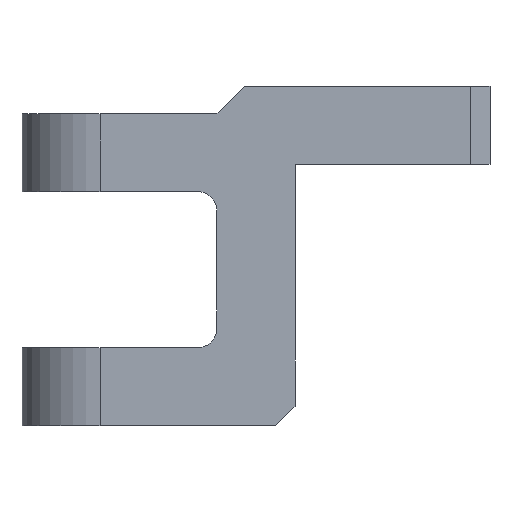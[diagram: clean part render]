
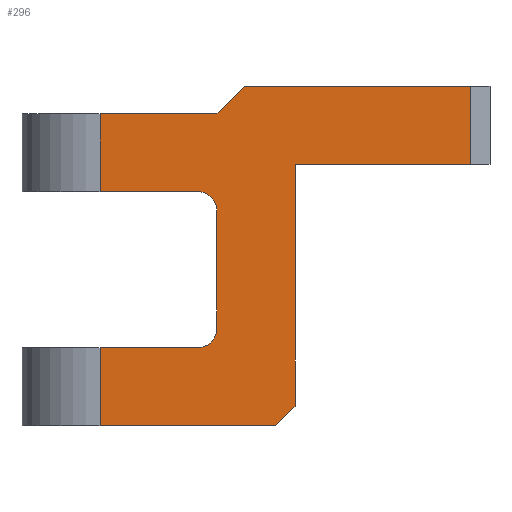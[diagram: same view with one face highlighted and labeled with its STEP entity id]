
A CAD part, front view. The second image highlights one B-rep face of the part: STEP entity #296.
In plain terms, the highlighted planar face has unit normal (0, -1, 0).
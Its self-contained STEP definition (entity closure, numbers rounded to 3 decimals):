
#1 = CARTESIAN_POINT ( 'NONE',  ( -10., -20., 55. ) ) ;
#5 = LINE ( 'NONE', #946, #976 ) ;
#11 = ORIENTED_EDGE ( 'NONE', *, *, #244, .T. ) ;
#17 = DIRECTION ( 'NONE',  ( -1., 0., 0. ) ) ;
#27 = ORIENTED_EDGE ( 'NONE', *, *, #934, .T. ) ;
#46 = CARTESIAN_POINT ( 'NONE',  ( -60., -20., 60. ) ) ;
#57 = CARTESIAN_POINT ( 'NONE',  ( -60., -20., 87. ) ) ;
#63 = LINE ( 'NONE', #1005, #633 ) ;
#74 = VERTEX_POINT ( 'NONE', #407 ) ;
#80 = VECTOR ( 'NONE', #131, 1000. ) ;
#106 = LINE ( 'NONE', #1241, #1200 ) ;
#113 = EDGE_CURVE ( 'NONE', #921, #156, #161, .T. ) ;
#114 = LINE ( 'NONE', #985, #264 ) ;
#118 = LINE ( 'NONE', #484, #510 ) ;
#124 = VERTEX_POINT ( 'NONE', #1202 ) ;
#131 = DIRECTION ( 'NONE',  ( 0., 0., -1. ) ) ;
#134 = CIRCLE ( 'NONE', #434, 5. ) ;
#143 = ORIENTED_EDGE ( 'NONE', *, *, #1238, .F. ) ;
#144 = DIRECTION ( 'NONE',  ( 0., 1., 0. ) ) ;
#154 = EDGE_CURVE ( 'NONE', #605, #1006, #748, .T. ) ;
#156 = VERTEX_POINT ( 'NONE', #1134 ) ;
#161 = LINE ( 'NONE', #628, #592 ) ;
#175 = DIRECTION ( 'NONE',  ( 0., 0., -1. ) ) ;
#181 = VERTEX_POINT ( 'NONE', #1015 ) ;
#211 = EDGE_CURVE ( 'NONE', #181, #605, #63, .T. ) ;
#228 = LINE ( 'NONE', #46, #1104 ) ;
#244 = EDGE_CURVE ( 'NONE', #649, #921, #1240, .T. ) ;
#264 = VECTOR ( 'NONE', #1076, 1000. ) ;
#273 = VERTEX_POINT ( 'NONE', #631 ) ;
#278 = DIRECTION ( 'NONE',  ( 0.707, 0., 0.707 ) ) ;
#287 = ORIENTED_EDGE ( 'NONE', *, *, #113, .T. ) ;
#296 = ADVANCED_FACE ( 'NONE', ( #911 ), #620, .F. ) ;
#305 = EDGE_LOOP ( 'NONE', ( #143, #27, #1019, #697, #386, #11, #287, #778, #1142, #459, #1090, #352, #508, #888, #989 ) ) ;
#326 = LINE ( 'NONE', #505, #80 ) ;
#344 = VERTEX_POINT ( 'NONE', #1073 ) ;
#352 = ORIENTED_EDGE ( 'NONE', *, *, #391, .T. ) ;
#369 = DIRECTION ( 'NONE',  ( 1., 0., 0. ) ) ;
#372 = VERTEX_POINT ( 'NONE', #490 ) ;
#384 = VECTOR ( 'NONE', #17, 1000. ) ;
#386 = ORIENTED_EDGE ( 'NONE', *, *, #495, .T. ) ;
#391 = EDGE_CURVE ( 'NONE', #1006, #124, #458, .T. ) ;
#404 = CARTESIAN_POINT ( 'NONE',  ( -90., -20., 20. ) ) ;
#407 = CARTESIAN_POINT ( 'NONE',  ( -40., -20., 80. ) ) ;
#419 = DIRECTION ( 'NONE',  ( 0., 1., 0. ) ) ;
#428 = EDGE_CURVE ( 'NONE', #372, #344, #118, .T. ) ;
#434 = AXIS2_PLACEMENT_3D ( 'NONE', #1177, #419, #797 ) ;
#444 = VERTEX_POINT ( 'NONE', #737 ) ;
#453 = EDGE_CURVE ( 'NONE', #273, #181, #681, .T. ) ;
#458 = LINE ( 'NONE', #964, #975 ) ;
#459 = ORIENTED_EDGE ( 'NONE', *, *, #211, .T. ) ;
#482 = CARTESIAN_POINT ( 'NONE',  ( -3., -20., 87. ) ) ;
#484 = CARTESIAN_POINT ( 'NONE',  ( 10., -20., 67. ) ) ;
#490 = CARTESIAN_POINT ( 'NONE',  ( 55., -20., 67. ) ) ;
#495 = EDGE_CURVE ( 'NONE', #1221, #649, #228, .T. ) ;
#497 = CARTESIAN_POINT ( 'NONE',  ( 55., -20., 87. ) ) ;
#503 = VERTEX_POINT ( 'NONE', #497 ) ;
#505 = CARTESIAN_POINT ( 'NONE',  ( 10., -20., 67. ) ) ;
#508 = ORIENTED_EDGE ( 'NONE', *, *, #1056, .F. ) ;
#510 = VECTOR ( 'NONE', #1041, 1000. ) ;
#529 = LINE ( 'NONE', #906, #875 ) ;
#552 = CARTESIAN_POINT ( 'NONE',  ( -15., -20., 60. ) ) ;
#573 = EDGE_CURVE ( 'NONE', #156, #273, #134, .T. ) ;
#579 = LINE ( 'NONE', #482, #672 ) ;
#592 = VECTOR ( 'NONE', #175, 1000. ) ;
#605 = VERTEX_POINT ( 'NONE', #1093 ) ;
#620 = PLANE ( 'NONE',  #910 ) ;
#628 = CARTESIAN_POINT ( 'NONE',  ( -10., -20., 60. ) ) ;
#631 = CARTESIAN_POINT ( 'NONE',  ( -15., -20., 20. ) ) ;
#633 = VECTOR ( 'NONE', #927, 1000. ) ;
#649 = VERTEX_POINT ( 'NONE', #552 ) ;
#672 = VECTOR ( 'NONE', #863, 1000. ) ;
#681 = LINE ( 'NONE', #404, #384 ) ;
#697 = ORIENTED_EDGE ( 'NONE', *, *, #1008, .T. ) ;
#700 = CARTESIAN_POINT ( 'NONE',  ( 5., -20., 0. ) ) ;
#730 = VECTOR ( 'NONE', #369, 1000. ) ;
#737 = CARTESIAN_POINT ( 'NONE',  ( -3., -20., 87. ) ) ;
#748 = LINE ( 'NONE', #937, #730 ) ;
#751 = EDGE_CURVE ( 'NONE', #372, #503, #5, .T. ) ;
#778 = ORIENTED_EDGE ( 'NONE', *, *, #573, .T. ) ;
#789 = AXIS2_PLACEMENT_3D ( 'NONE', #1211, #1197, #999 ) ;
#797 = DIRECTION ( 'NONE',  ( 0., 0., 1. ) ) ;
#835 = CARTESIAN_POINT ( 'NONE',  ( -40., -20., 60. ) ) ;
#863 = DIRECTION ( 'NONE',  ( -0.707, 0., -0.707 ) ) ;
#875 = VECTOR ( 'NONE', #1223, 1000. ) ;
#885 = VERTEX_POINT ( 'NONE', #955 ) ;
#888 = ORIENTED_EDGE ( 'NONE', *, *, #428, .F. ) ;
#906 = CARTESIAN_POINT ( 'NONE',  ( -10., -20., 80. ) ) ;
#910 = AXIS2_PLACEMENT_3D ( 'NONE', #57, #144, #1206 ) ;
#911 = FACE_OUTER_BOUND ( 'NONE', #305, .T. ) ;
#921 = VERTEX_POINT ( 'NONE', #1 ) ;
#927 = DIRECTION ( 'NONE',  ( 0., 0., -1. ) ) ;
#934 = EDGE_CURVE ( 'NONE', #444, #885, #579, .T. ) ;
#937 = CARTESIAN_POINT ( 'NONE',  ( -60., -20., 0. ) ) ;
#946 = CARTESIAN_POINT ( 'NONE',  ( 55., -20., 87. ) ) ;
#955 = CARTESIAN_POINT ( 'NONE',  ( -10., -20., 80. ) ) ;
#964 = CARTESIAN_POINT ( 'NONE',  ( 10., -20., 5. ) ) ;
#975 = VECTOR ( 'NONE', #278, 1000. ) ;
#976 = VECTOR ( 'NONE', #1169, 1000. ) ;
#985 = CARTESIAN_POINT ( 'NONE',  ( -40., -20., 87. ) ) ;
#989 = ORIENTED_EDGE ( 'NONE', *, *, #751, .T. ) ;
#992 = DIRECTION ( 'NONE',  ( 1., 0., 0. ) ) ;
#999 = DIRECTION ( 'NONE',  ( 0., 0., 1. ) ) ;
#1005 = CARTESIAN_POINT ( 'NONE',  ( -40., -20., 87. ) ) ;
#1006 = VERTEX_POINT ( 'NONE', #700 ) ;
#1008 = EDGE_CURVE ( 'NONE', #74, #1221, #114, .T. ) ;
#1015 = CARTESIAN_POINT ( 'NONE',  ( -40., -20., 20. ) ) ;
#1019 = ORIENTED_EDGE ( 'NONE', *, *, #1222, .F. ) ;
#1041 = DIRECTION ( 'NONE',  ( -1., 0., 0. ) ) ;
#1056 = EDGE_CURVE ( 'NONE', #344, #124, #326, .T. ) ;
#1073 = CARTESIAN_POINT ( 'NONE',  ( 10., -20., 67. ) ) ;
#1076 = DIRECTION ( 'NONE',  ( 0., 0., -1. ) ) ;
#1090 = ORIENTED_EDGE ( 'NONE', *, *, #154, .T. ) ;
#1093 = CARTESIAN_POINT ( 'NONE',  ( -40., -20., 0. ) ) ;
#1104 = VECTOR ( 'NONE', #992, 1000. ) ;
#1134 = CARTESIAN_POINT ( 'NONE',  ( -10., -20., 25. ) ) ;
#1142 = ORIENTED_EDGE ( 'NONE', *, *, #453, .T. ) ;
#1157 = DIRECTION ( 'NONE',  ( 1., 0., 0. ) ) ;
#1169 = DIRECTION ( 'NONE',  ( 0., 0., 1. ) ) ;
#1177 = CARTESIAN_POINT ( 'NONE',  ( -15., -20., 25. ) ) ;
#1197 = DIRECTION ( 'NONE',  ( 0., 1., 0. ) ) ;
#1200 = VECTOR ( 'NONE', #1157, 1000. ) ;
#1202 = CARTESIAN_POINT ( 'NONE',  ( 10., -20., 5. ) ) ;
#1206 = DIRECTION ( 'NONE',  ( 0., 0., 1. ) ) ;
#1211 = CARTESIAN_POINT ( 'NONE',  ( -15., -20., 55. ) ) ;
#1221 = VERTEX_POINT ( 'NONE', #835 ) ;
#1222 = EDGE_CURVE ( 'NONE', #74, #885, #529, .T. ) ;
#1223 = DIRECTION ( 'NONE',  ( 1., 0., 0. ) ) ;
#1238 = EDGE_CURVE ( 'NONE', #444, #503, #106, .T. ) ;
#1240 = CIRCLE ( 'NONE', #789, 5. ) ;
#1241 = CARTESIAN_POINT ( 'NONE',  ( -60., -20., 87. ) ) ;
